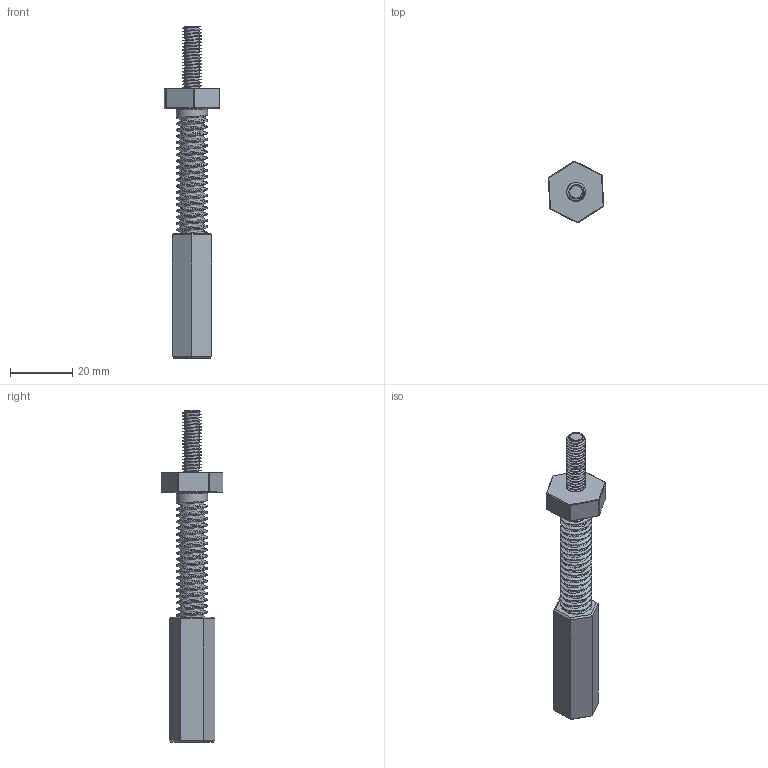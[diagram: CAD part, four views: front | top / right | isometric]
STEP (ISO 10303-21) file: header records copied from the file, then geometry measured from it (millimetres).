
FILE_DESCRIPTION(/* description */ ('Unknown'),/* implementation_level */ '2;1');
FILE_NAME(/* name */ 'Treppo 70',/* time_stamp */ '2020-05-04T15:52:33+02:00',/* author */ ('Unknown'),/* organization */ ('Unknown'),/* preprocessor_version */ 'ST-DEVELOPER v16.7',/* originating_system */ 'DEX',/* authorisation */ $);
FILE_SCHEMA (('AUTOMOTIVE_DESIGN {1 0 10303 214 3 1 1}'));
Length unit declared in the file: millimetre
Products named in the file (4): Treppo 70; Langmutter Mx40; Gewindestange; M 10x70_Vollgewinde
Assembly tree (3 placements, depth 2):
  Treppo 70
    Langmutter Mx40
    Gewindestange
    M 10x70_Vollgewinde
Bounding box: 17.8 x 19.79 x 106.5 mm (x, y, z)
Volume: 8951.1 mm3; surface area: 8192 mm2
Topology: 2 solids, 3 shells, 111 faces, 262 edges, 157 vertices
Faces by surface type: plane 62, cylinder 38, bspline 5, cone 3, torus 3
Full cylindrical faces by diameter (mm): 8.8 x1, 10 x34
Entity records: 16888 total; most frequent: CARTESIAN_POINT 15314, DIRECTION 295, ORIENTED_EDGE 292, EDGE_CURVE 146, LINE 117, VECTOR 117, AXIS2_PLACEMENT_3D 89, EDGE_LOOP 86
